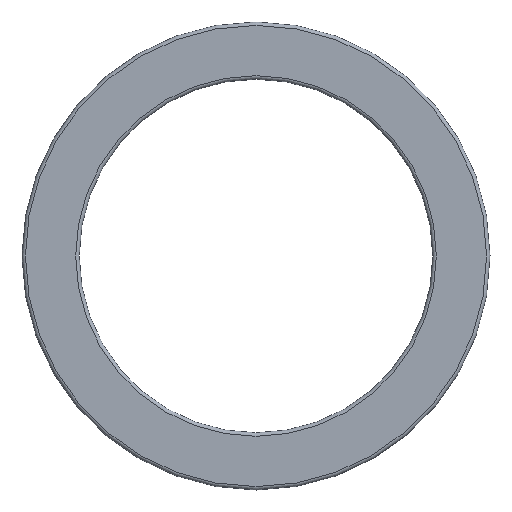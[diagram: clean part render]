
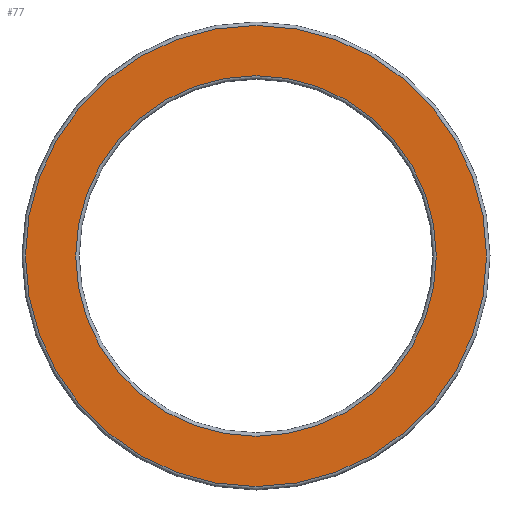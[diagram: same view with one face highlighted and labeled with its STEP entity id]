
A CAD part, front view. The second image highlights one B-rep face of the part: STEP entity #77.
In plain terms, the highlighted planar face has unit normal (0, -1, 0).
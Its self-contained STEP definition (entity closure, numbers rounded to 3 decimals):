
#15=PLANE('',#88);
#21=FACE_BOUND('',#36,.T.);
#27=FACE_OUTER_BOUND('',#35,.T.);
#35=EDGE_LOOP('',(#65));
#36=EDGE_LOOP('',(#66));
#45=CIRCLE('',#87,52.);
#46=CIRCLE('',#89,66.5);
#51=VERTEX_POINT('',#128);
#52=VERTEX_POINT('',#131);
#57=EDGE_CURVE('',#51,#51,#45,.T.);
#58=EDGE_CURVE('',#52,#52,#46,.T.);
#65=ORIENTED_EDGE('',*,*,#58,.F.);
#66=ORIENTED_EDGE('',*,*,#57,.T.);
#77=ADVANCED_FACE('',(#27,#21),#15,.T.);
#87=AXIS2_PLACEMENT_3D('',#129,#105,#106);
#88=AXIS2_PLACEMENT_3D('',#130,#107,#108);
#89=AXIS2_PLACEMENT_3D('',#132,#109,#110);
#105=DIRECTION('center_axis',(0.,1.,0.));
#106=DIRECTION('ref_axis',(1.,0.,0.));
#107=DIRECTION('center_axis',(0.,-1.,0.));
#108=DIRECTION('ref_axis',(0.,0.,-1.));
#109=DIRECTION('center_axis',(0.,1.,0.));
#110=DIRECTION('ref_axis',(1.,0.,0.));
#128=CARTESIAN_POINT('',(-52.,-12.5,0.));
#129=CARTESIAN_POINT('Origin',(0.,-12.5,0.));
#130=CARTESIAN_POINT('Origin',(-66.5,-12.5,0.));
#131=CARTESIAN_POINT('',(-66.5,-12.5,0.));
#132=CARTESIAN_POINT('Origin',(0.,-12.5,0.));
